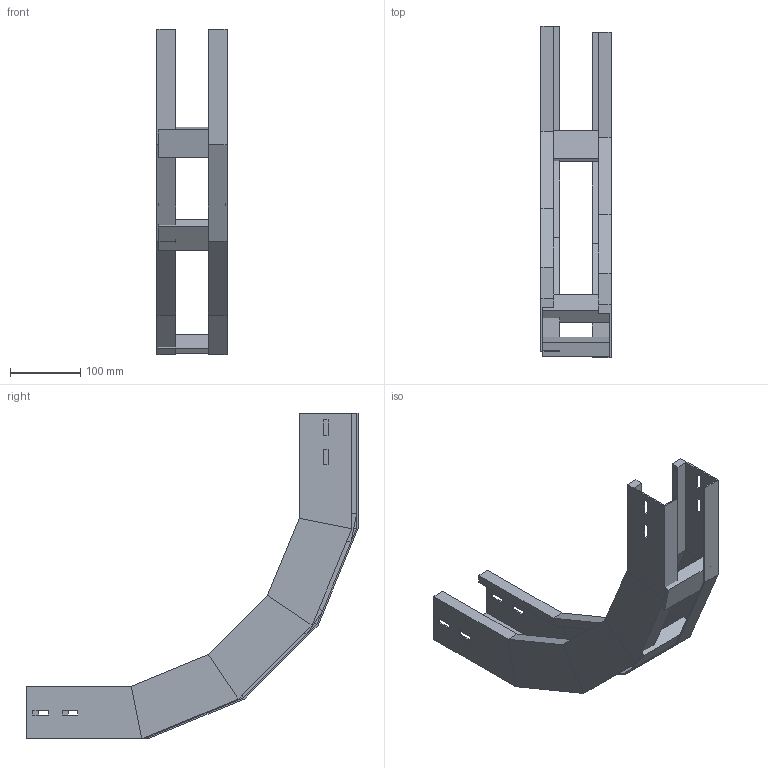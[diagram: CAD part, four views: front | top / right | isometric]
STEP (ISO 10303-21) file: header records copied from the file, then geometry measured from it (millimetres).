
FILE_DESCRIPTION (( 'STEP AP214' ), '1' );
FILE_NAME ('A2X30B3C100XX.step', '2025-04-02T08:37:56', ( '' ), ( '' ), 'SwSTEP 2.0', 'SolidWorks 2023', '' );
FILE_SCHEMA (( 'AUTOMOTIVE_DESIGN' ));
Length unit declared in the file: millimetre
Products named in the file (3): TRAVERSINO_100; LONGH.SALITA_90°_H75_R300; A2X30B3C100XX
Assembly tree (5 placements, depth 2):
  A2X30B3C100XX
    LONGH.SALITA_90°_H75_R300  x2
    TRAVERSINO_100  x3
Bounding box: 100 x 472.38 x 463.83 mm (x, y, z)
Volume: 778191.7 mm3; surface area: 379974.2 mm2
Topology: 5 solids, 5 shells, 134 faces, 308 edges, 184 vertices
Faces by surface type: plane 134
Entity records: 1864 total; most frequent: CARTESIAN_POINT 308, ORIENTED_EDGE 296, DIRECTION 292, VECTOR 148, EDGE_CURVE 148, LINE 148, VERTEX_POINT 88, AXIS2_PLACEMENT_3D 72
